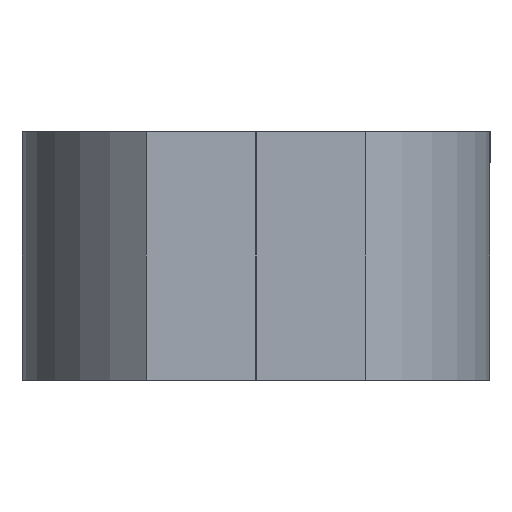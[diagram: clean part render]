
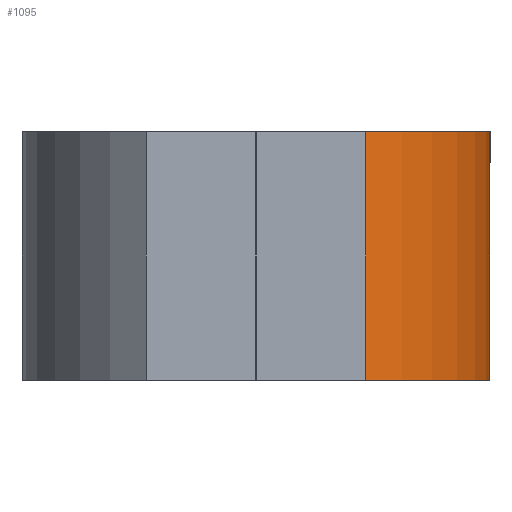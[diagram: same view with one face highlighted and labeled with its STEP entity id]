
A CAD part, left-side view. The second image highlights one B-rep face of the part: STEP entity #1095.
In plain terms, the highlighted cylindrical face has radius 20 mm (diameter 40 mm), a partial arc.
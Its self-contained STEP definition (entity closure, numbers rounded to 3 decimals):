
#149 = ORIENTED_EDGE ( 'NONE', *, *, #5760, .F. ) ;
#565 = CARTESIAN_POINT ( 'NONE',  ( -28.637, -16., -17. ) ) ;
#787 = CARTESIAN_POINT ( 'NONE',  ( -28.637, -16., -8.5 ) ) ;
#1032 = EDGE_CURVE ( 'NONE', #1188, #5699, #2863, .T. ) ;
#1041 = CARTESIAN_POINT ( 'NONE',  ( -45., -7.5, -17. ) ) ;
#1063 = CARTESIAN_POINT ( 'NONE',  ( -28.637, 4., 0. ) ) ;
#1095 = ADVANCED_FACE ( 'NONE', ( #1122 ), #5522, .F. ) ;
#1122 = FACE_OUTER_BOUND ( 'NONE', #4223, .T. ) ;
#1188 = VERTEX_POINT ( 'NONE', #1041 ) ;
#1278 = ORIENTED_EDGE ( 'NONE', *, *, #1032, .F. ) ;
#1490 = AXIS2_PLACEMENT_3D ( 'NONE', #1063, #4476, #1557 ) ;
#1557 = DIRECTION ( 'NONE',  ( -1., 0., 0. ) ) ;
#1769 = DIRECTION ( 'NONE',  ( 0., 0., 1. ) ) ;
#1858 = CARTESIAN_POINT ( 'NONE',  ( -45., -7.5, 0. ) ) ;
#1951 = AXIS2_PLACEMENT_3D ( 'NONE', #5777, #4477, #4458 ) ;
#2383 = DIRECTION ( 'NONE',  ( 0., 0., -1. ) ) ;
#2696 = ORIENTED_EDGE ( 'NONE', *, *, #5265, .F. ) ;
#2725 = CARTESIAN_POINT ( 'NONE',  ( -45., -7.5, -8.5 ) ) ;
#2863 = CIRCLE ( 'NONE', #1951, 20. ) ;
#3176 = VERTEX_POINT ( 'NONE', #3249 ) ;
#3218 = DIRECTION ( 'NONE',  ( 0., 0., 1. ) ) ;
#3249 = CARTESIAN_POINT ( 'NONE',  ( -28.637, -16., 0. ) ) ;
#3375 = DIRECTION ( 'NONE',  ( -1., 0., 0. ) ) ;
#3449 = VECTOR ( 'NONE', #3218, 1000. ) ;
#3574 = AXIS2_PLACEMENT_3D ( 'NONE', #5693, #2383, #3375 ) ;
#3594 = VECTOR ( 'NONE', #1769, 1000. ) ;
#3757 = LINE ( 'NONE', #787, #3594 ) ;
#4223 = EDGE_LOOP ( 'NONE', ( #1278, #5153, #149, #2696 ) ) ;
#4458 = DIRECTION ( 'NONE',  ( -1., 0., 0. ) ) ;
#4476 = DIRECTION ( 'NONE',  ( 0., 0., -1. ) ) ;
#4477 = DIRECTION ( 'NONE',  ( 0., 0., 1. ) ) ;
#5153 = ORIENTED_EDGE ( 'NONE', *, *, #5278, .T. ) ;
#5265 = EDGE_CURVE ( 'NONE', #5699, #3176, #3757, .T. ) ;
#5278 = EDGE_CURVE ( 'NONE', #1188, #6062, #6022, .T. ) ;
#5522 = CYLINDRICAL_SURFACE ( 'NONE', #3574, 20. ) ;
#5693 = CARTESIAN_POINT ( 'NONE',  ( -28.637, 4., 0. ) ) ;
#5699 = VERTEX_POINT ( 'NONE', #565 ) ;
#5760 = EDGE_CURVE ( 'NONE', #3176, #6062, #5798, .T. ) ;
#5777 = CARTESIAN_POINT ( 'NONE',  ( -28.637, 4., -17. ) ) ;
#5798 = CIRCLE ( 'NONE', #1490, 20. ) ;
#6022 = LINE ( 'NONE', #2725, #3449 ) ;
#6062 = VERTEX_POINT ( 'NONE', #1858 ) ;
